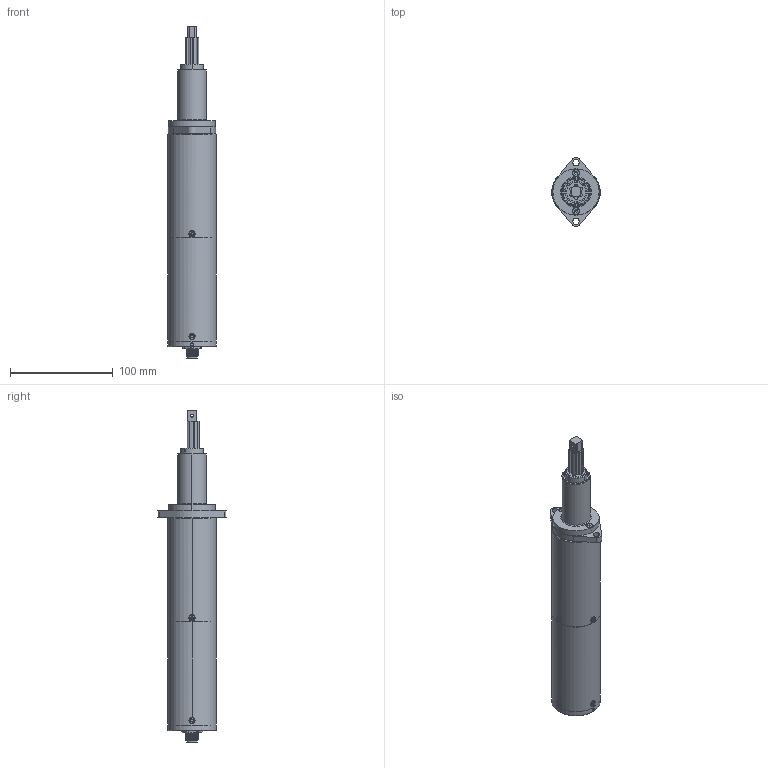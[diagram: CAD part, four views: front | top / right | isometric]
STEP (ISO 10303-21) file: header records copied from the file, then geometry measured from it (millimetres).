
FILE_DESCRIPTION (( 'STEP AP214' ), '1' );
FILE_NAME ('Pluto 20CA_FN.STEP', '2013-05-22T08:03:21', ( '' ), ( '' ), 'SwSTEP 2.0', 'SolidWorks 2013', '' );
FILE_SCHEMA (( 'AUTOMOTIVE_DESIGN' ));
Length unit declared in the file: millimetre
Products named in the file (1): Pluto 20CA_FN
Bounding box: 47 x 66.97 x 323.35 mm (x, y, z)
Volume: 157471.8 mm3; surface area: 110491 mm2
Topology: 22 solids, 22 shells, 772 faces, 1932 edges, 1212 vertices
Faces by surface type: cylinder 440, plane 186, cone 82, torus 33, bspline 31
Entity records: 44466 total; most frequent: CARTESIAN_POINT 17224, DIRECTION 3994, ORIENTED_EDGE 3820, EDGE_CURVE 1910, AXIS2_PLACEMENT_3D 1624, VERTEX_POINT 1212, EDGE_LOOP 894, CIRCLE 882
